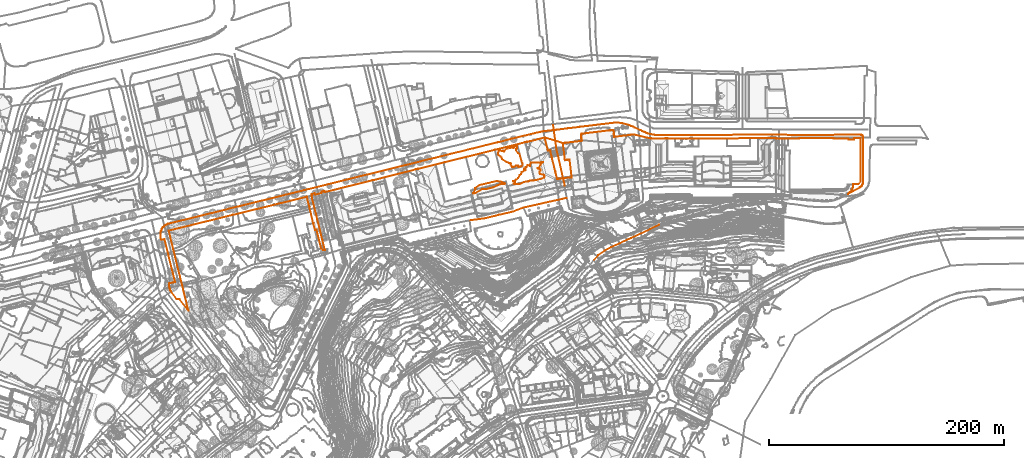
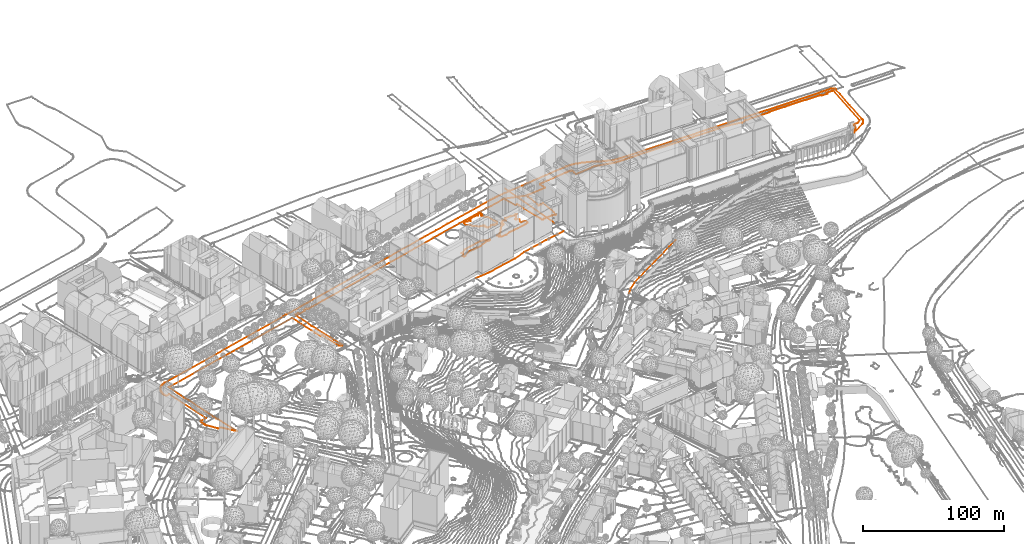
# Not in any storey, part 201 of 494: 9 proxies.
"""IFC2X3 model written with IfcOpenShell, lengths in metres."""

from ifc_helpers import new_model, entity, si_unit, frame, origin_with_axes, place, context, subcontext, project, element, save


model = new_model("IFC2X3")

# Units and contexts
model_context = context("Model", 3, precision=1e-05, world=origin_with_axes())
body_context = subcontext(model_context, "Body", "Model", "MODEL_VIEW")
ifc_project = project(units=[si_unit("AREAUNIT", "SQUARE_METRE"), si_unit("LENGTHUNIT", "METRE")], contexts=[model_context])

# Proxies
proxy_1_placement = place(None, frame((420.2107320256, 339.755732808, 539.338), z_axis=(0.0, 0.0, 1.0), x_axis=(1.0, 0.0, 0.0)))
element("IfcBuildingElementProxy", 1, at=proxy_1_placement, Name="Road 18", ObjectType="NOTDEFINED", context=body_context, shape_type="GeometricCurveSet", body=[
    entity("IfcGeometricCurveSet", [entity("IfcPolyline", [entity("IfcCartesianPoint", [0.0, 0.0, 0.0]), entity("IfcCartesianPoint", [12.1909999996, 1.639999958, -0.145]), entity("IfcCartesianPoint", [25.2870000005, 4.6979998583, -0.145]), entity("IfcCartesianPoint", [36.4580000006, 7.359999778, -0.145]), entity("IfcCartesianPoint", [45.9919999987, 10.9009996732, -0.145])])]),
])
proxy_2_placement = place(None, frame((526.0887320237, 306.1137338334, 509.564), z_axis=(0.0, 0.0, 1.0), x_axis=(1.0, 0.0, 0.0)))
element("IfcBuildingElementProxy", 2, at=proxy_2_placement, Name="Road 169", ObjectType="NOTDEFINED", context=body_context, shape_type="GeometricCurveSet", body=[
    entity("IfcGeometricCurveSet", [entity("IfcPolyline", [entity("IfcCartesianPoint", [0.0, 0.0, 0.0]), entity("IfcCartesianPoint", [3.7430000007, 4.0479998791, 0.464]), entity("IfcCartesianPoint", [9.2790000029, 7.9819997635, 1.274]), entity("IfcCartesianPoint", [14.5380000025, 10.8659996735, 2.052]), entity("IfcCartesianPoint", [31.7190000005, 18.6479994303, 4.864]), entity("IfcCartesianPoint", [48.018000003, 26.2849992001, 7.601]), entity("IfcCartesianPoint", [55.3600000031, 29.9549990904, 8.53])])]),
])
proxy_3_placement = place(None, frame((491.2227320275, 421.6907303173, 542.441), z_axis=(0.0, 0.0, 1.0), x_axis=(1.0, 0.0, 0.0)))
element("IfcBuildingElementProxy", 3, at=proxy_3_placement, Name="Road 195", ObjectType="NOTDEFINED", context=body_context, shape_type="GeometricCurveSet", body=[
    entity("IfcGeometricCurveSet", [entity("IfcPolyline", [entity("IfcCartesianPoint", [0.0, 0.0, 0.0]), entity("IfcCartesianPoint", [3.0489999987, -21.5079993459, 0.583]), entity("IfcCartesianPoint", [10.057, -52.3159984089, -1.647])])]),
])
proxy_4_placement = place(None, frame((466.2027320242, 350.6567324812, 539.193), z_axis=(0.0, 0.0, 1.0), x_axis=(1.0, 0.0, 0.0)))
element("IfcBuildingElementProxy", 4, at=proxy_4_placement, Name="Road 196", ObjectType="NOTDEFINED", context=body_context, shape_type="GeometricCurveSet", body=[
    entity("IfcGeometricCurveSet", [entity("IfcPolyline", [entity("IfcCartesianPoint", [0.0, 0.0, 0.0]), entity("IfcCartesianPoint", [20.6600000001, 4.6789998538, 0.399]), entity("IfcCartesianPoint", [36.8000000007, 8.2509997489, 0.25])])]),
])
proxy_5_placement = place(None, frame((156.8817320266, 326.9607160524, 539.7072372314), z_axis=(0.0, 0.0, 1.0), x_axis=(1.0, 0.0, 0.0)))
element("IfcBuildingElementProxy", 5, at=proxy_5_placement, Name="Roads Outline 42", ObjectType="NOTDEFINED", context=body_context, shape_type="GeometricCurveSet", body=[
    entity("IfcGeometricCurveSet", [entity("IfcPolyline", [entity("IfcCartesianPoint", [0.1750000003, 2.2960000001, 0.0485044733]), entity("IfcCartesianPoint", [0.3330000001, 3.044, 0.0515671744]), entity("IfcCartesianPoint", [0.5490000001, 3.7779999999, 0.0671288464]), entity("IfcCartesianPoint", [0.8230000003, 4.4920000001, 0.0785144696]), entity("IfcCartesianPoint", [1.1529999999, 5.182, 0.0952973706]), entity("IfcCartesianPoint", [1.5360000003, 5.844, 0.1126376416]), entity("IfcCartesianPoint", [1.9710000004, 6.473, 0.1425468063]), entity("IfcCartesianPoint", [2.4540000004, 7.0659999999, 0.1541067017]), entity("IfcCartesianPoint", [3.054, 7.6869999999, 0.176592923]), entity("IfcCartesianPoint", [3.7080000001, 8.2509999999, 0.199993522]), entity("IfcCartesianPoint", [4.409, 8.754, 0.2125746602]), entity("IfcCartesianPoint", [5.1529999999, 9.193, 0.2284054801]), entity("IfcCartesianPoint", [5.9330000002, 9.5630000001, 0.2518685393]), entity("IfcCartesianPoint", [6.7430000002, 9.861, 0.2899580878]), entity("IfcCartesianPoint", [7.577, 10.0859999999, 0.3203938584]), entity("IfcCartesianPoint", [66.7180000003, 24.72, 0.8284680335]), entity("IfcCartesianPoint", [113.1350000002, 36.1899999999, 1.2895333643]), entity("IfcCartesianPoint", [122.4950000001, 38.4890000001, 1.3829624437]), entity("IfcCartesianPoint", [123.3060000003, 38.6899999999, 1.4122152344]), entity("IfcCartesianPoint", [143.398, 43.6639999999, 1.4925942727]), entity("IfcCartesianPoint", [209.1910000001, 59.9679999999, 2.1919093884]), entity("IfcCartesianPoint", [233.551, 66.0020000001, 2.5010001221]), entity("IfcCartesianPoint", [248.014, 69.584, 2.6704536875]), entity("IfcCartesianPoint", [255.591, 71.4439999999, 2.7868564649]), entity("IfcCartesianPoint", [266.2570000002, 74.1029999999, 2.7853008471]), entity("IfcCartesianPoint", [277.5250000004, 76.8840000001, 2.8809123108]), entity("IfcCartesianPoint", [287.4590000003, 79.3289999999, 2.9618540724]), entity("IfcCartesianPoint", [299.1690000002, 82.2560000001, 3.0052550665]), entity("IfcCartesianPoint", [310.9980000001, 85.1850000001, 2.9987780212]), entity("IfcCartesianPoint", [317.7400000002, 86.8400000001, 3.0418129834]), entity("IfcCartesianPoint", [318.8800000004, 87.1189999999, 3.0138842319]), entity("IfcCartesianPoint", [320.7990000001, 87.547, 2.9146880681]), entity("IfcCartesianPoint", [322.7250000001, 87.9439999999, 3.0202051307]), entity("IfcCartesianPoint", [324.5240000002, 88.291, 3.0321898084]), entity("IfcCartesianPoint", [326.3290000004, 88.601, 3.0335543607]), entity("IfcCartesianPoint", [328.6770000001, 88.9509999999, 3.0412556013]), entity("IfcCartesianPoint", [331.034, 89.24, 3.029096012]), entity("IfcCartesianPoint", [336.1170000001, 89.821, 3.0306603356]), entity("IfcCartesianPoint", [347.173, 91.182, 2.9961238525]), entity("IfcCartesianPoint", [357.5890000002, 92.4450000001, 3.1103005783]), entity("IfcCartesianPoint", [367.2050000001, 93.629, 3.2077760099]), entity("IfcCartesianPoint", [376.1130000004, 94.727, 3.1918535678]), entity("IfcCartesianPoint", [384.8470000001, 95.754, 3.0450704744]), entity("IfcCartesianPoint", [386.2230000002, 95.9110000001, 2.9926435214]), entity("IfcCartesianPoint", [387.605, 95.9879999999, 2.9782345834]), entity("IfcCartesianPoint", [388.9900000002, 95.986, 2.9760345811]), entity("IfcCartesianPoint", [390.372, 95.9040000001, 2.9894702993]), entity("IfcCartesianPoint", [391.8060000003, 95.6950000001, 3.0479887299]), entity("IfcCartesianPoint", [393.233, 95.439, 3.0612541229]), entity("IfcCartesianPoint", [394.6500000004, 95.1359999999, 2.9954281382]), entity("IfcCartesianPoint", [396.2050000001, 94.7490000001, 3.0360772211]), entity("IfcCartesianPoint", [397.7439999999, 94.304, 3.0422942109]), entity("IfcCartesianPoint", [399.2650000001, 93.801, 2.9347566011]), entity("IfcCartesianPoint", [400.872, 93.2, 3.005200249]), entity("IfcCartesianPoint", [402.4540000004, 92.5360000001, 3.0491715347]), entity("IfcCartesianPoint", [404.0079999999, 91.8089999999, 3.1205027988]), entity("IfcCartesianPoint", [408.7790000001, 89.459, 3.124468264]), entity("IfcCartesianPoint", [410.0449999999, 88.8529999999, 3.1329684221]), entity("IfcCartesianPoint", [411.3280000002, 88.2819999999, 3.1451777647]), entity("IfcCartesianPoint", [412.6260000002, 87.7490000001, 3.2034068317]), entity("IfcCartesianPoint", [414.02, 87.2209999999, 3.2080056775]), entity("IfcCartesianPoint", [415.4300000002, 86.7350000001, 3.1457432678]), entity("IfcCartesianPoint", [416.8530000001, 86.291, 3.0538598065]), entity("IfcCartesianPoint", [417.9000000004, 86.075, 3.0718899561]), entity("IfcCartesianPoint", [418.9530000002, 85.8929999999, 3.0742294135]), entity("IfcCartesianPoint", [420.1850000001, 85.726, 3.1019338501]), entity("IfcCartesianPoint", [421.4220000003, 85.6059999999, 3.111194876]), entity("IfcCartesianPoint", [422.6630000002, 85.534, 3.1080641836]), entity("IfcCartesianPoint", [423.906, 85.5109999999, 3.0881493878]), entity("IfcCartesianPoint", [450.426, 85.5349999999, 3.0187671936]), entity("IfcCartesianPoint", [502.5460000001, 85.648, 2.7985166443]), entity("IfcCartesianPoint", [526.926, 85.6839999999, 2.7691709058]), entity("IfcCartesianPoint", [552.1660000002, 85.419, 2.7354095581]), entity("IfcCartesianPoint", [588.9560000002, 85.757, 2.7214532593]), entity("IfcCartesianPoint", [596.1460000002, 85.7520000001, 2.7218515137]), entity("IfcCartesianPoint", [596.5260000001, 85.702, 2.7254776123]), entity("IfcCartesianPoint", [596.8940000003, 85.5959999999, 2.7291977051]), entity("IfcCartesianPoint", [597.2430000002, 85.4369999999, 2.7347778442]), entity("IfcCartesianPoint", [597.5640000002, 85.2279999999, 2.7421127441]), entity("IfcCartesianPoint", [597.8510000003, 84.9739999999, 2.7510269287]), entity("IfcCartesianPoint", [598.1300000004, 84.632, 2.7602016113]), entity("IfcCartesianPoint", [598.3470000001, 84.247, 2.7597551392]), entity("IfcCartesianPoint", [598.4950000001, 83.831, 2.7592727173]), entity("IfcCartesianPoint", [598.5700000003, 83.3959999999, 2.7524246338]), entity("IfcCartesianPoint", [598.5760000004, 83.2949999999, 2.750267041]), entity("IfcCartesianPoint", [598.5790000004, 83.193, 2.7480880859]), entity("IfcCartesianPoint", [598.5810000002, 77.037, 2.2872031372]), entity("IfcCartesianPoint", [598.5550000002, 63.797, 1.1581526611]), entity("IfcCartesianPoint", [598.5390000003, 45.909, -0.2909738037]), entity("IfcCartesianPoint", [598.5010000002, 45.3089999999, -0.2738467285]), entity("IfcCartesianPoint", [598.4050000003, 44.7150000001, -0.249555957]), entity("IfcCartesianPoint", [598.2510000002, 44.1340000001, -0.2654178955]), entity("IfcCartesianPoint", [598.0410000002, 43.571, -0.2772615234]), entity("IfcCartesianPoint", [597.7760000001, 43.031, -0.2773274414]), entity("IfcCartesianPoint", [597.4170000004, 42.46, -0.2880325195]), entity("IfcCartesianPoint", [596.997, 41.932, -0.3105588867]), entity("IfcCartesianPoint", [596.5210000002, 41.4539999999, -0.3193583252]), entity("IfcCartesianPoint", [595.9950000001, 41.0319999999, -0.3182507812]), entity("IfcCartesianPoint", [595.4250000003, 40.6699999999, -0.317456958]), entity("IfcCartesianPoint", [585.6410000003, 35.362, -1.2079440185]), entity("IfcCartesianPoint", [586.3170000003, 35.7960000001, -0.5170959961]), entity("IfcCartesianPoint", [586.952, 36.2889999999, -0.5243477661]), entity("IfcCartesianPoint", [587.54, 36.8370000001, -0.5229982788]), entity("IfcCartesianPoint", [588.077, 37.4350000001, -0.487484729]), entity("IfcCartesianPoint", [588.5590000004, 38.078, -0.4467606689]), entity("IfcCartesianPoint", [588.9810000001, 38.7619999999, -0.4003876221]), entity("IfcCartesianPoint", [589.341, 39.48, -0.3385092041]), entity("IfcCartesianPoint", [589.6350000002, 40.2279999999, -0.3180234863]), entity("IfcCartesianPoint", [589.861, 40.9990000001, -0.3181641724]), entity("IfcCartesianPoint", [590.0180000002, 41.787, -0.316745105]), entity("IfcCartesianPoint", [590.1040000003, 42.5870000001, -0.2826142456]), entity("IfcCartesianPoint", [590.1180000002, 43.3899999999, -0.2772836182]), entity("IfcCartesianPoint", [590.1150000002, 43.47, -0.2772738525]), entity("IfcCartesianPoint", [593.9820000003, 43.4739999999, -0.2772733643]), entity("IfcCartesianPoint", [596.4890000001, 45.966, -0.2911825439]), entity("IfcCartesianPoint", [596.4580000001, 82.8810000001, 2.7414230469]), entity("IfcCartesianPoint", [590.773, 82.871, 2.7412094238]), entity("IfcCartesianPoint", [590.7740000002, 81.7409999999, 2.680992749]), entity("IfcCartesianPoint", [586.0860000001, 81.7339999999, 2.6805825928]), entity("IfcCartesianPoint", [586.0530000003, 81.952, 2.6933560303]), entity("IfcCartesianPoint", [585.9540000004, 82.149, 2.704898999]), entity("IfcCartesianPoint", [585.7990000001, 82.3049999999, 2.714039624]), entity("IfcCartesianPoint", [585.6030000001, 82.406, 2.7199575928]), entity("IfcCartesianPoint", [585.3850000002, 82.4399999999, 2.7219497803]), entity("IfcCartesianPoint", [573.1210000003, 82.415, 2.7204849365]), entity("IfcCartesianPoint", [573.1200000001, 82.865, 2.74108125]), entity("IfcCartesianPoint", [566.6520000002, 82.845, 2.7406540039]), entity("IfcCartesianPoint", [560.7010000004, 82.8319999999, 2.7403762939]), entity("IfcCartesianPoint", [559.7060000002, 82.8219999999, 2.7401626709]), entity("IfcCartesianPoint", [557.213, 82.8230000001, 2.7401840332]), entity("IfcCartesianPoint", [556.2170000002, 82.817, 2.7400558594]), entity("IfcCartesianPoint", [550.2609999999, 82.8060000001, 2.739820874]), entity("IfcCartesianPoint", [543.8100000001, 82.8119999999, 2.7399490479]), entity("IfcCartesianPoint", [543.8130000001, 82.3629999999, 2.7174380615]), entity("IfcCartesianPoint", [536.1750000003, 82.3100000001, 2.7143325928]), entity("IfcCartesianPoint", [534.7600000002, 82.3289999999, 2.715445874]), entity("IfcCartesianPoint", [533.216, 82.379, 2.7183755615]), entity("IfcCartesianPoint", [532.733, 82.379, 2.7183755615]), entity("IfcCartesianPoint", [529.3630000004, 82.371, 2.7125010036]), entity("IfcCartesianPoint", [524.1830000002, 82.3600000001, 2.4240464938]), entity("IfcCartesianPoint", [524.1830000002, 82.828, 2.657912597]), entity("IfcCartesianPoint", [522.6800000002, 82.8300000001, 1.4145934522]), entity("IfcCartesianPoint", [522.673, 82.686, 1.3451538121]), entity("IfcCartesianPoint", [510.5100000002, 82.662, 2.849692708]), entity("IfcCartesianPoint", [510.5010000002, 82.7930000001, 2.8478136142]), entity("IfcCartesianPoint", [510.5, 82.8149999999, 2.8476621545]), entity("IfcCartesianPoint", [509.0130000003, 82.811, 2.8466363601]), entity("IfcCartesianPoint", [509.0130000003, 82.6610000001, 2.8467279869]), entity("IfcCartesianPoint", [502.162, 82.6499999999, 2.9231305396]), entity("IfcCartesianPoint", [482.48, 82.618, 2.9131530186]), entity("IfcCartesianPoint", [458.2239999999, 82.5789999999, 2.9373800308]), entity("IfcCartesianPoint", [453.551, 82.571, 3.1921882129]), entity("IfcCartesianPoint", [438.5240000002, 82.5460000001, 3.2113473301]), entity("IfcCartesianPoint", [438.4050000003, 82.5460000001, 3.2080552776]), entity("IfcCartesianPoint", [431.6570000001, 82.5360000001, 3.1201495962]), entity("IfcCartesianPoint", [431.6570000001, 82.6340000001, 3.1206908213]), entity("IfcCartesianPoint", [431.656, 82.686, 3.1210598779]), entity("IfcCartesianPoint", [430.1610000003, 82.682, 3.1478209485]), entity("IfcCartesianPoint", [430.159, 82.537, 3.1422427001]), entity("IfcCartesianPoint", [418.0090000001, 82.534, 3.2086734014]), entity("IfcCartesianPoint", [418.0060000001, 82.675, 3.2081047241]), entity("IfcCartesianPoint", [416.8970000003, 82.6680000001, 3.210356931]), entity("IfcCartesianPoint", [416.503, 82.675, 3.2118731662]), entity("IfcCartesianPoint", [402.8000000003, 85.996, 3.2004066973]), entity("IfcCartesianPoint", [400.8119999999, 85.75, 3.2782705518]), entity("IfcCartesianPoint", [400.821, 85.6540000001, 3.2836435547]), entity("IfcCartesianPoint", [386.4360000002, 83.8929999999, 3.4078238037]), entity("IfcCartesianPoint", [386.1520000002, 86.2719999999, 3.4210038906]), entity("IfcCartesianPoint", [386.4380000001, 86.3089999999, 3.4163906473]), entity("IfcCartesianPoint", [386.0780000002, 89.29, 3.2703598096]), entity("IfcCartesianPoint", [385.4880000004, 89.2220000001, 3.2749405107]), entity("IfcCartesianPoint", [385.4210000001, 89.8089999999, 3.2272761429]), entity("IfcCartesianPoint", [382.9880000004, 89.5009999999, 3.2990924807]), entity("IfcCartesianPoint", [382.9980000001, 89.4029999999, 3.3040709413]), entity("IfcCartesianPoint", [381.3130000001, 89.2, 3.3506790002]), entity("IfcCartesianPoint", [381.2890000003, 89.2919999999, 3.3433020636]), entity("IfcCartesianPoint", [362.7090000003, 87.0209999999, 3.3513704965]), entity("IfcCartesianPoint", [362.7120000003, 86.916, 3.3492847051]), entity("IfcCartesianPoint", [361.0360000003, 86.716, 3.3355788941]), entity("IfcCartesianPoint", [361.0160000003, 86.807, 3.3327112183]), entity("IfcCartesianPoint", [358.588, 86.5109999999, 3.2604840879]), entity("IfcCartesianPoint", [358.6520000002, 85.9280000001, 3.2851663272]), entity("IfcCartesianPoint", [358.0730000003, 85.8470000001, 3.263213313]), entity("IfcCartesianPoint", [358.449, 82.878, 3.2996867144]), entity("IfcCartesianPoint", [358.7380000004, 82.902, 3.3027547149]), entity("IfcCartesianPoint", [359.04, 80.5209999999, 3.2810913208]), entity("IfcCartesianPoint", [344.6510000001, 78.773, 3.3317557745]), entity("IfcCartesianPoint", [344.639, 78.8699999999, 3.3275769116]), entity("IfcCartesianPoint", [342.6610000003, 78.6229999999, 3.2578642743]), entity("IfcCartesianPoint", [327.3149999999, 83.335, 3.1523758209]), entity("IfcCartesianPoint", [325.5700000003, 82.9099999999, 3.2011068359]), entity("IfcCartesianPoint", [325.5830000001, 82.8429999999, 3.1996104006]), entity("IfcCartesianPoint", [314.7370000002, 80.159, 3.2568167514]), entity("IfcCartesianPoint", [312.4720000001, 79.5989999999, 3.2406062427]), entity("IfcCartesianPoint", [312.4540000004, 79.669, 3.2407707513]), entity("IfcCartesianPoint", [310.7080000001, 79.237, 3.2041613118]), entity("IfcCartesianPoint", [302.7770000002, 77.277, 3.2327267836]), entity("IfcCartesianPoint", [284.8530000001, 72.8470000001, 3.1600154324]), entity("IfcCartesianPoint", [260.3020000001, 66.7790000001, 3.057766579]), entity("IfcCartesianPoint", [242.3119999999, 62.3330000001, 2.8777429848]), entity("IfcCartesianPoint", [234.358, 60.3589999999, 2.7017402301]), entity("IfcCartesianPoint", [232.5930000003, 59.9310000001, 2.6912968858]), entity("IfcCartesianPoint", [232.605, 59.868, 2.690455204]), entity("IfcCartesianPoint", [219.5010000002, 56.6029999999, 2.5558385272]), entity("IfcCartesianPoint", [219.4820000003, 56.6699999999, 2.5565875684]), entity("IfcCartesianPoint", [217.7409999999, 56.237, 2.4844815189]), entity("IfcCartesianPoint", [190.6340000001, 49.3640000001, 2.0069677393]), entity("IfcCartesianPoint", [180.6950000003, 46.8759999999, 1.8213783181]), entity("IfcCartesianPoint", [154.0490000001, 40.2960000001, 1.7022847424]), entity("IfcCartesianPoint", [144.0819999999, 37.8189999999, 1.5060660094]), entity("IfcCartesianPoint", [141.0360000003, 37.1259999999, 1.379625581]), entity("IfcCartesianPoint", [139.8330000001, 36.8149999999, 1.4795032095]), entity("IfcCartesianPoint", [139.5530000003, 37.8300000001, 1.5314758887]), entity("IfcCartesianPoint", [137.0810000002, 37.176, 1.4789871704]), entity("IfcCartesianPoint", [137.3230000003, 36.166, 1.4348878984]), entity("IfcCartesianPoint", [131.7750000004, 34.73, 1.4761719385]), entity("IfcCartesianPoint", [131.7620000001, 34.726, 1.4754655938]), entity("IfcCartesianPoint", [131.4930000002, 35.8200000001, 1.4582819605]), entity("IfcCartesianPoint", [128.8859999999, 35.1680000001, 1.4427338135]), entity("IfcCartesianPoint", [129.1690000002, 34.0560000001, 1.4178246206]), entity("IfcCartesianPoint", [128.6610000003, 33.9239999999, 1.4117594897]), entity("IfcCartesianPoint", [132.5040000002, 18.297, 0.8796084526]), entity("IfcCartesianPoint", [133.605, 13.8219999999, 0.7028618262]), entity("IfcCartesianPoint", [137.9760000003, -3.953, 0.2206425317]), entity("IfcCartesianPoint", [140.0470000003, -12.3740000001, 0.2906108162]), entity("IfcCartesianPoint", [139.2740000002, -12.568, 0.3378671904]), entity("IfcCartesianPoint", [139.2570000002, -12.5, 0.3386387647]), entity("IfcCartesianPoint", [138.8000000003, -12.615, 0.3494735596]), entity("IfcCartesianPoint", [138.548, -12.6799999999, 0.3586116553]), entity("IfcCartesianPoint", [137.281, -11.216, 0.3205939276]), entity("IfcCartesianPoint", [136.932, -11.3030000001, 0.375245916]), entity("IfcCartesianPoint", [132.98, 4.753, 0.7198120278]), entity("IfcCartesianPoint", [131.7180000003, 4.442, 0.7385104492]), entity("IfcCartesianPoint", [130.2460000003, 10.425, 0.8883506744]), entity("IfcCartesianPoint", [130.1000000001, 10.389, 0.8923116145]), entity("IfcCartesianPoint", [127.8140000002, 20.037, 1.075664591]), entity("IfcCartesianPoint", [126.841, 24.142, 1.1923853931]), entity("IfcCartesianPoint", [124.7630000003, 32.916, 1.5162328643]), entity("IfcCartesianPoint", [69.9650000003, 19.4550000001, 0.8630218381]), entity("IfcCartesianPoint", [61.9730000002, 17.4909999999, 0.8239106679]), entity("IfcCartesianPoint", [7.1070000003, 4.0060000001, 0.2919409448]), entity("IfcCartesianPoint", [10.9160000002, -11.507, -0.5882248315]), entity("IfcCartesianPoint", [12.0840000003, -16.2620000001, -0.5600948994]), entity("IfcCartesianPoint", [18.111, -40.8030000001, -1.8038295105]), entity("IfcCartesianPoint", [18.804, -43.621, -1.7887757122]), entity("IfcCartesianPoint", [23.8300000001, -64.0870000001, -2.2528354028]), entity("IfcCartesianPoint", [16.267, -54.2290000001, -2.3130788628]), entity("IfcCartesianPoint", [13.875, -54.1570000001, -2.2850000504]), entity("IfcCartesianPoint", [9.1140000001, -48.05, -2.0144521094]), entity("IfcCartesianPoint", [8.7069999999, -47.368, -2.0116766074]), entity("IfcCartesianPoint", [8.3540000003, -46.6570000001, -1.996013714]), entity("IfcCartesianPoint", [8.054, -45.9210000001, -1.9673875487]), entity("IfcCartesianPoint", [7.8119999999, -45.165, -1.9129987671]), entity("IfcCartesianPoint", [7.6270000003, -44.3929999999, -1.7985021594]), entity("IfcCartesianPoint", [7.5120000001, -43.6980000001, -1.7692143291]), entity("IfcCartesianPoint", [7.4440000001, -42.997, -1.7355224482]), entity("IfcCartesianPoint", [7.423, -42.2930000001, -1.6808399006]), entity("IfcCartesianPoint", [7.449, -41.5889999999, -1.646709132]), entity("IfcCartesianPoint", [7.48, -41.2420000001, -1.6333796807]), entity("IfcCartesianPoint", [7.5220000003, -40.8959999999, -1.6422572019]), entity("IfcCartesianPoint", [7.8620000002, -40.814, -1.6474221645]), entity("IfcCartesianPoint", [12.4950000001, -39.699, -1.771726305]), entity("IfcCartesianPoint", [3.5210000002, -3.1200000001, -0.1347664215]), entity("IfcCartesianPoint", [1.0160000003, -3.72, -0.0808176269]), entity("IfcCartesianPoint", [0.7060000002, -3.794, -0.0949880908]), entity("IfcCartesianPoint", [0.3340000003, -2.2779999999, -0.0410253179]), entity("IfcCartesianPoint", [0.1670000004, -1.5279999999, -0.0066069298]), entity("IfcCartesianPoint", [0.0550000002, -0.767, -0.008987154]), entity("IfcCartesianPoint", [0.0, 0.0, 0.0]), entity("IfcCartesianPoint", [0.0020000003, 0.7690000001, 0.0336313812]), entity("IfcCartesianPoint", [0.0600000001, 1.5360000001, 0.0458359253]), entity("IfcCartesianPoint", [0.1750000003, 2.2960000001, 0.0485044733])])]),
])
proxy_6_placement = place(None, frame((484.1967320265, 410.2957160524, 542.8596130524), z_axis=(0.0, 0.0, 1.0), x_axis=(1.0, 0.0, 0.0)))
element("IfcBuildingElementProxy", 6, at=proxy_6_placement, Name="Roads Outline 56", ObjectType="NOTDEFINED", context=body_context, shape_type="GeometricCurveSet", body=[
    entity("IfcGeometricCurveSet", [entity("IfcPolyline", [entity("IfcCartesianPoint", [0.0, 0.0, 0.0]), entity("IfcCartesianPoint", [15.3460000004, -4.7120000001, 0.1054884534]), entity("IfcCartesianPoint", [15.5870000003, -6.6909999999, 0.1853239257]), entity("IfcCartesianPoint", [15.6870000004, -6.6869999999, 0.1938361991]), entity("IfcCartesianPoint", [16.0470000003, -9.6129999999, 0.1785597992]), entity("IfcCartesianPoint", [16.6320000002, -14.4550000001, 0.1042999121]), entity("IfcCartesianPoint", [16.9910000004, -17.406, 0.0655459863]), entity("IfcCartesianPoint", [16.8940000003, -17.419, 0.0644288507]), entity("IfcCartesianPoint", [17.1320000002, -19.4029999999, -0.0382874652]), entity("IfcCartesianPoint", [19.1010000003, -19.152, 0.00526612]), entity("IfcCartesianPoint", [19.0660000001, -18.8629999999, 0.0035841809]), entity("IfcCartesianPoint", [21.108, -18.6140000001, -0.030503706]), entity("IfcCartesianPoint", [22.5890000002, -30.7709999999, -0.6130489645]), entity("IfcCartesianPoint", [22.9760000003, -33.942, -1.1761575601]), entity("IfcCartesianPoint", [22.5870000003, -33.9939999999, -1.15188746]), entity("IfcCartesianPoint", [22.2620000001, -34.0360000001, -1.1304041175]), entity("IfcCartesianPoint", [21.9420000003, -34.0759999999, -1.0990043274]), entity("IfcCartesianPoint", [21.6260000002, -34.115, -1.0019407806]), entity("IfcCartesianPoint", [21.3540000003, -34.1669999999, -0.9207460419]), entity("IfcCartesianPoint", [21.3320000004, -34.027, -0.894366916]), entity("IfcCartesianPoint", [20.9940000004, -34.0789999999, -0.7918363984]), entity("IfcCartesianPoint", [20.9780000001, -33.9539999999, -0.7699688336]), entity("IfcCartesianPoint", [19.9130000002, -34.064, -0.4808700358]), entity("IfcCartesianPoint", [19.9200000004, -34.1710000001, -0.5016399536]), entity("IfcCartesianPoint", [19.3310000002, -34.23, -0.3918727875]), entity("IfcCartesianPoint", [13.0990000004, -34.9790000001, -0.4259699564]), entity("IfcCartesianPoint", [12.5050000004, -35.0630000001, -0.5154741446]), entity("IfcCartesianPoint", [12.4880000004, -34.9709999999, -0.498187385]), entity("IfcCartesianPoint", [11.4010000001, -35.111, -0.5621653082]), entity("IfcCartesianPoint", [11.4040000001, -35.2050000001, -0.5810049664]), entity("IfcCartesianPoint", [10.6100000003, -35.297, -0.5597468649]), entity("IfcCartesianPoint", [10.2520000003, -33.8370000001, -0.2638973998]), entity("IfcCartesianPoint", [10.1770000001, -33.8470000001, -0.2630383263]), entity("IfcCartesianPoint", [9.3500000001, -30.497, -0.1750668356]), entity("IfcCartesianPoint", [9.4190000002, -30.4709999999, -0.1767340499]), entity("IfcCartesianPoint", [9.0490000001, -28.9569999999, -0.1631770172]), entity("IfcCartesianPoint", [8.9720000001, -28.977, -0.1609391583]), entity("IfcCartesianPoint", [6.1140000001, -17.4309999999, 0.0653019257]), entity("IfcCartesianPoint", [6.1810000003, -17.412, 0.0652612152]), entity("IfcCartesianPoint", [5.9790000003, -16.585, 0.0750989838]), entity("IfcCartesianPoint", [5.8080000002, -15.8999999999, 0.0832612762]), entity("IfcCartesianPoint", [5.7400000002, -15.9169999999, 0.0833276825]), entity("IfcCartesianPoint", [4.909, -12.5549999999, 0.1233671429]), entity("IfcCartesianPoint", [4.9760000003, -12.5379999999, 0.1232873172]), entity("IfcCartesianPoint", [4.8120000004, -11.871, 0.1307973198]), entity("IfcCartesianPoint", [4.5480000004, -10.804, 0.1512780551]), entity("IfcCartesianPoint", [2.7260000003, -11.2339999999, 0.1476590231]), entity("IfcCartesianPoint", [0.3770000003, -1.763, 0.047412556]), entity("IfcCartesianPoint", [0.443, -1.7420000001, 0.0440718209]), entity("IfcCartesianPoint", [0.0, 0.0, 0.0])])]),
])
proxy_7_placement = place(None, frame((444.2582454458, 396.1707160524, 543.0), z_axis=(0.0, 0.0, 1.0), x_axis=(1.0, 0.0, 0.0)))
element("IfcBuildingElementProxy", 7, at=proxy_7_placement, Name="Contour Line 543.0 m", ObjectType="NOTDEFINED", context=body_context, shape_type="GeometricCurveSet", body=[
    entity("IfcGeometricCurveSet", [entity("IfcPolyline", [entity("IfcCartesianPoint", [17.5372285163, -11.0, 0.0]), entity("IfcCartesianPoint", [15.4194865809, -9.8698501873, 0.0]), entity("IfcCartesianPoint", [14.4194865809, -10.7902757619, 0.0]), entity("IfcCartesianPoint", [12.4194865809, -11.1591448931, 0.0]), entity("IfcCartesianPoint", [11.997439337, -11.0, 0.0]), entity("IfcCartesianPoint", [11.7995945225, -10.0, 0.0]), entity("IfcCartesianPoint", [10.7956333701, -9.0, 0.0]), entity("IfcCartesianPoint", [11.2474711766, -8.0, 0.0]), entity("IfcCartesianPoint", [10.4194865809, -7.501930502, 0.0]), entity("IfcCartesianPoint", [9.4194865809, -7.4710982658, 0.0]), entity("IfcCartesianPoint", [7.4194865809, -6.7706766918, 0.0]), entity("IfcCartesianPoint", [3.4194865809, -4.2765957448, 0.0]), entity("IfcCartesianPoint", [3.3792855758, -3.0, 0.0]), entity("IfcCartesianPoint", [2.4194865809, -1.9585253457, 0.0]), entity("IfcCartesianPoint", [0.4194865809, -0.8518957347, 0.0]), entity("IfcCartesianPoint", [0.0, 0.0, 0.0]), entity("IfcCartesianPoint", [0.4194865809, 2.0784313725, 0.0]), entity("IfcCartesianPoint", [1.1561636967, 3.0, 0.0]), entity("IfcCartesianPoint", [2.0510655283, 3.0, 0.0]), entity("IfcCartesianPoint", [3.4194865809, 2.4381720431, 0.0]), entity("IfcCartesianPoint", [4.4194865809, 3.1355735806, 0.0]), entity("IfcCartesianPoint", [5.4194865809, 2.1212814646, 0.0]), entity("IfcCartesianPoint", [5.7797117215, 3.0, 0.0]), entity("IfcCartesianPoint", [7.4194865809, 4.7162055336, 0.0]), entity("IfcCartesianPoint", [8.4194865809, 4.9032038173, 0.0]), entity("IfcCartesianPoint", [9.4194865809, 5.6108654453, 0.0]), entity("IfcCartesianPoint", [10.4194865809, 5.173998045, 0.0]), entity("IfcCartesianPoint", [12.4194865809, 5.6962663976, 0.0]), entity("IfcCartesianPoint", [13.4194865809, 5.2758169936, 0.0]), entity("IfcCartesianPoint", [13.8283426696, 6.0, 0.0]), entity("IfcCartesianPoint", [15.4194865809, 7.0625, 0.0]), entity("IfcCartesianPoint", [16.4194865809, 6.6164383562, 0.0]), entity("IfcCartesianPoint", [16.5913404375, 5.0, 0.0]), entity("IfcCartesianPoint", [16.4194865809, 4.6947115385, 0.0]), entity("IfcCartesianPoint", [15.4194865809, 4.4400826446, 0.0]), entity("IfcCartesianPoint", [15.4194865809, 3.4196185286, 0.0]), entity("IfcCartesianPoint", [17.3204766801, 1.0, 0.0]), entity("IfcCartesianPoint", [18.5777275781, 0.0, 0.0]), entity("IfcCartesianPoint", [20.1197449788, -6.0, 0.0]), entity("IfcCartesianPoint", [21.1357359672, -8.0, 0.0]), entity("IfcCartesianPoint", [20.8919598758, -9.0, 0.0]), entity("IfcCartesianPoint", [20.1802733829, -10.0, 0.0]), entity("IfcCartesianPoint", [19.4194865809, -10.4334779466, 0.0]), entity("IfcCartesianPoint", [18.4194865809, -10.7030401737, 0.0]), entity("IfcCartesianPoint", [17.4194865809, -9.8688293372, 0.0]), entity("IfcCartesianPoint", [16.9734434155, -10.0, 0.0]), entity("IfcCartesianPoint", [17.5372285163, -11.0, 0.0])])]),
])
proxy_8_placement = place(None, frame((457.245299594, 373.1707160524, 543.0), z_axis=(0.0, 0.0, 1.0), x_axis=(1.0, 0.0, 0.0)))
element("IfcBuildingElementProxy", 8, at=proxy_8_placement, Name="Contour Line 543.0 m", ObjectType="NOTDEFINED", context=body_context, shape_type="GeometricCurveSet", body=[
    entity("IfcGeometricCurveSet", [entity("IfcPolyline", [entity("IfcCartesianPoint", [6.3195693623, -2.0, 0.0]), entity("IfcCartesianPoint", [5.4324324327, -2.3260140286, 0.0]), entity("IfcCartesianPoint", [1.4324324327, -2.7009523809, 0.0]), entity("IfcCartesianPoint", [0.4510990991, -2.0, 0.0]), entity("IfcCartesianPoint", [1.7997793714, -1.0, 0.0]), entity("IfcCartesianPoint", [1.4324324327, -0.500045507, 0.0]), entity("IfcCartesianPoint", [0.0, 0.0, 0.0]), entity("IfcCartesianPoint", [2.4324324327, 1.19851577, 0.0]), entity("IfcCartesianPoint", [4.4324324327, 2.7114285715, 0.0]), entity("IfcCartesianPoint", [5.5225963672, 5.0, 0.0]), entity("IfcCartesianPoint", [6.6688665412, 6.0, 0.0]), entity("IfcCartesianPoint", [7.4324324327, 7.6130653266, 0.0]), entity("IfcCartesianPoint", [9.6766184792, 9.0, 0.0]), entity("IfcCartesianPoint", [9.2832881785, 10.0, 0.0]), entity("IfcCartesianPoint", [9.4324324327, 10.5922330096, 0.0]), entity("IfcCartesianPoint", [9.6324324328, 10.0, 0.0]), entity("IfcCartesianPoint", [10.4324324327, 9.5158730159, 0.0]), entity("IfcCartesianPoint", [10.7608308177, 10.0, 0.0]), entity("IfcCartesianPoint", [10.4324324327, 12.0914634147, 0.0]), entity("IfcCartesianPoint", [11.4324324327, 12.1184210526, 0.0]), entity("IfcCartesianPoint", [12.4324324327, 13.8415841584, 0.0]), entity("IfcCartesianPoint", [14.4324324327, 12.7822580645, 0.0]), entity("IfcCartesianPoint", [14.5679795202, 14.0, 0.0]), entity("IfcCartesianPoint", [15.4324324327, 15.7621483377, 0.0]), entity("IfcCartesianPoint", [20.4324324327, 15.8601895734, 0.0]), entity("IfcCartesianPoint", [22.4324324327, 15.6041275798, 0.0]), entity("IfcCartesianPoint", [24.4324324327, 16.381091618, 0.0]), entity("IfcCartesianPoint", [25.4148444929, 16.0, 0.0]), entity("IfcCartesianPoint", [24.0108638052, 15.0, 0.0]), entity("IfcCartesianPoint", [23.2077133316, 14.0, 0.0]), entity("IfcCartesianPoint", [22.4504180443, 12.0, 0.0]), entity("IfcCartesianPoint", [20.9452529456, 11.0, 0.0]), entity("IfcCartesianPoint", [21.4324324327, 10.5249999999, 0.0]), entity("IfcCartesianPoint", [23.3590379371, 10.0, 0.0]), entity("IfcCartesianPoint", [23.5794912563, 9.0, 0.0]), entity("IfcCartesianPoint", [22.6314496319, 8.0, 0.0]), entity("IfcCartesianPoint", [22.4324324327, 6.698275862, 0.0]), entity("IfcCartesianPoint", [22.8726498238, 6.0, 0.0]), entity("IfcCartesianPoint", [25.4324324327, 5.5471153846, 0.0]), entity("IfcCartesianPoint", [26.3591425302, 5.0, 0.0]), entity("IfcCartesianPoint", [26.6476404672, 4.0, 0.0]), entity("IfcCartesianPoint", [26.4158004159, 3.0, 0.0]), entity("IfcCartesianPoint", [24.3575425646, 2.0, 0.0]), entity("IfcCartesianPoint", [17.4324324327, 0.4824451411, 0.0]), entity("IfcCartesianPoint", [14.4324324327, 0.256640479, 0.0]), entity("IfcCartesianPoint", [13.4324324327, -0.1724031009, 0.0]), entity("IfcCartesianPoint", [9.4324324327, -0.6757082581, 0.0]), entity("IfcCartesianPoint", [6.3195693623, -2.0, 0.0])])]),
])
proxy_9_placement = place(None, frame((423.1754613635, 363.1707160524, 543.0), z_axis=(0.0, 0.0, 1.0), x_axis=(1.0, 0.0, 0.0)))
element("IfcBuildingElementProxy", 9, at=proxy_9_placement, Name="Contour Line 543.0 m", ObjectType="NOTDEFINED", context=body_context, shape_type="GeometricCurveSet", body=[
    entity("IfcGeometricCurveSet", [entity("IfcPolyline", [entity("IfcCartesianPoint", [2.1482606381, 0.0, 0.0]), entity("IfcCartesianPoint", [0.5022706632, -0.7680555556, 0.0]), entity("IfcCartesianPoint", [0.0, 0.0, 0.0]), entity("IfcCartesianPoint", [2.0824436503, 3.0, 0.0]), entity("IfcCartesianPoint", [1.5320769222, 4.0, 0.0]), entity("IfcCartesianPoint", [5.5022706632, 6.6478085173, 0.0]), entity("IfcCartesianPoint", [20.5022706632, 10.1550364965, 0.0]), entity("IfcCartesianPoint", [22.5022706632, 9.5058565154, 0.0]), entity("IfcCartesianPoint", [23.5022706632, 9.4772812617, 0.0]), entity("IfcCartesianPoint", [27.1513670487, 8.0, 0.0]), entity("IfcCartesianPoint", [26.5022706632, 7.5533678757, 0.0]), entity("IfcCartesianPoint", [23.5022706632, 7.3685239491, 0.0]), entity("IfcCartesianPoint", [19.8363828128, 6.0, 0.0]), entity("IfcCartesianPoint", [17.5022706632, 4.7627573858, 0.0]), entity("IfcCartesianPoint", [14.5022706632, 3.9923903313, 0.0]), entity("IfcCartesianPoint", [11.5022706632, 3.3383525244, 0.0]), entity("IfcCartesianPoint", [7.5022706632, 3.0536164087, 0.0]), entity("IfcCartesianPoint", [2.1482606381, 0.0, 0.0])])]),
])

save(model, "model.ifc")
